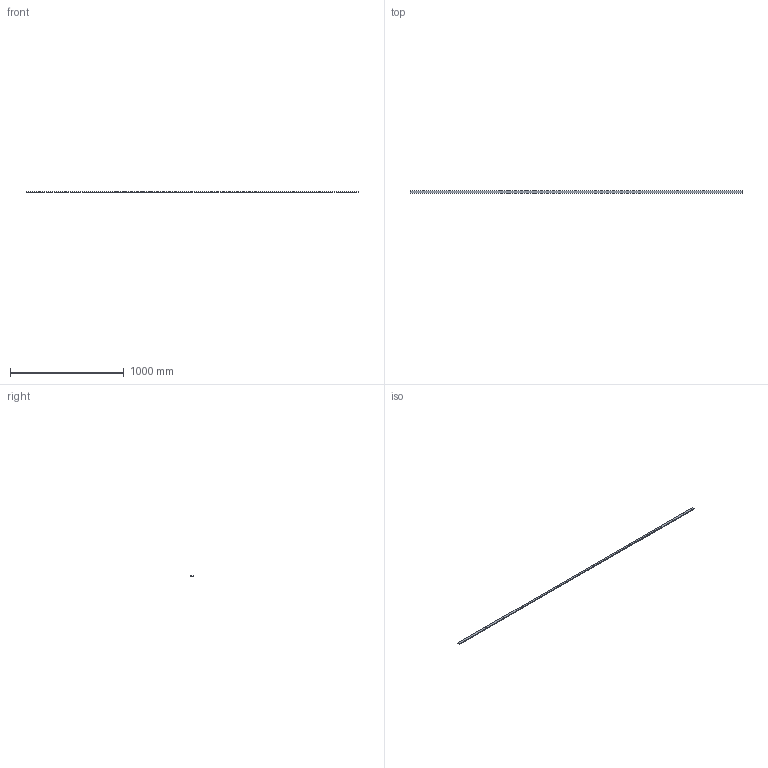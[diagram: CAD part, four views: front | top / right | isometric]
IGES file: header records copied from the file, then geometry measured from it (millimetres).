
Start section: Data from Parasolid IGES Translator 15.0.47, Copyright(c) 2006 Siemens P LM Software. All Rights Reserved.
Global section: file name: 9120134.igs; native system:  By UGS Corp.; preprocessor: XPlus GENERIC/IGES 3.0; author: Noname; organization: Noname; date: 20140122.182800; units: millimetre
Bounding box: 2924 x 20 x 8 mm (x, y, z)
Surface area: 159396.4 mm2 (no closed solid volume)
Topology: 0 solids, 0 shells, 36 faces, 126 edges, 102 vertices
Faces by surface type: extrusion 22, revolution 14
